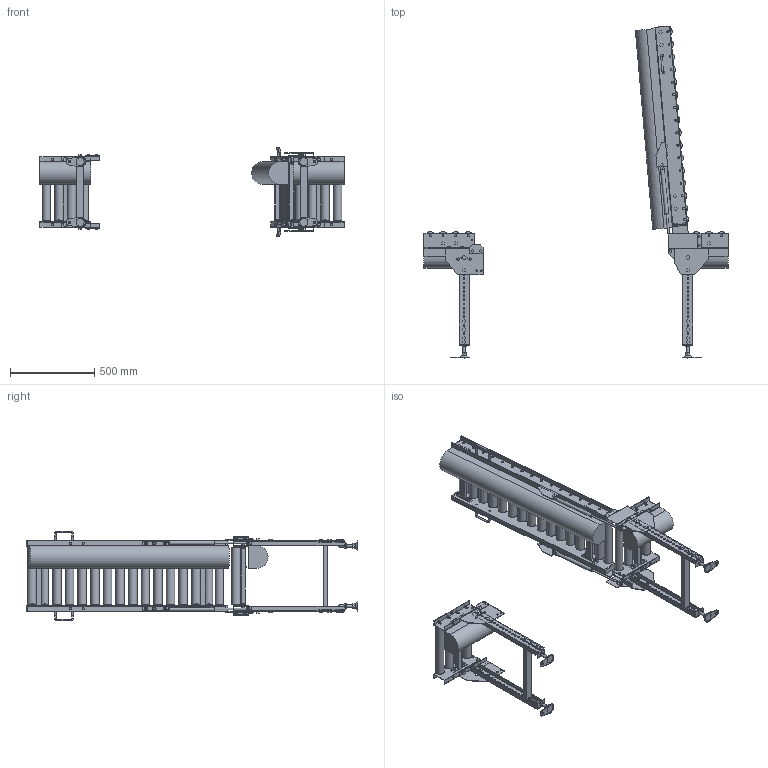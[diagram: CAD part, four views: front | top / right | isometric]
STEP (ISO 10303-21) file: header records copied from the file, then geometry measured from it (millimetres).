
FILE_DESCRIPTION( (''), '2;1');
FILE_NAME ('WEB-MCD50-355-75-120-L-HU.stp','2025-07-01T16:00:39',(''),(''),'spGate 20.6.2 (****-****-****-****)','','');
FILE_SCHEMA (('AUTOMOTIVE_DESIGN'));
Length unit declared in the file: millimetre
Products named in the file (30): WEB-MCD50-355-75-120-L-HU; TEMP_X_T-prt0; TEMP_X_T-prt1; TEMP_X_T-prt2; TEMP_X_T-prt3; TEMP_X_T-prt4; TEMP_X_T-prt5; TEMP_X_T-prt6; TEMP_X_T-prt7; TEMP_X_T-prt8; TEMP_X_T-prt9; TEMP_X_T-prt10; TEMP_X_T-prt11; TEMP_X_T-prt12; TEMP_X_T-prt13; TEMP_X_T-prt14; TEMP_X_T-prt15; TEMP_X_T-prt16; TEMP_X_T-prt17; TEMP_X_T-prt18; TEMP_X_T-prt19; TEMP_X_T-prt20; TEMP_X_T-prt21; TEMP_X_T-prt22; TEMP_X_T-prt23; TEMP_X_T-prt24; TEMP_X_T-prt25; TEMP_X_T-prt26; TEMP_X_T-prt27; TEMP_X_T-prt28
Assembly tree (29 placements, depth 2):
  WEB-MCD50-355-75-120-L-HU
    TEMP_X_T-prt0
    TEMP_X_T-prt1
    TEMP_X_T-prt2
    TEMP_X_T-prt3
    TEMP_X_T-prt4
    TEMP_X_T-prt5
    TEMP_X_T-prt6
    TEMP_X_T-prt7
    TEMP_X_T-prt8
    TEMP_X_T-prt9
    TEMP_X_T-prt10
    TEMP_X_T-prt11
    TEMP_X_T-prt12
    TEMP_X_T-prt13
    TEMP_X_T-prt14
    TEMP_X_T-prt15
    TEMP_X_T-prt16
    TEMP_X_T-prt17
    TEMP_X_T-prt18
    TEMP_X_T-prt19
    TEMP_X_T-prt20
    TEMP_X_T-prt21
    TEMP_X_T-prt22
    TEMP_X_T-prt23
    TEMP_X_T-prt24
    TEMP_X_T-prt25
    TEMP_X_T-prt26
    TEMP_X_T-prt27
    TEMP_X_T-prt28
Bounding box: 1800 x 1964.71 x 531.4 mm (x, y, z)
Volume: 47045463.6 mm3; surface area: 4740626.8 mm2
Topology: 29 solids, 55 shells, 2667 faces, 6754 edges, 4453 vertices
Faces by surface type: plane 2168, cylinder 481, bspline 18
Full cylindrical faces by diameter (mm): 8 x8, 8.5 x8, 9 x20, 10 x58, 10.5 x96, 11 x8, 12 x50, 13 x12, 14 x4, 15 x6, 15.4 x2, 15.7 x2, 16 x10, 17 x4, 18 x6, 18.4 x28, 18.5 x8, 21 x12, 22 x2, 50.8 x24
Entity records: 137012 total; most frequent: CARTESIAN_POINT 15410, DIRECTION 13702, ORIENTED_EDGE 13508, COLOUR_RGB 9450, PRESENTATION_STYLE_ASSIGNMENT 9450, STYLED_ITEM 9450, EDGE_CURVE 6754, DRAUGHTING_PRE_DEFINED_CURVE_FONT 6754
